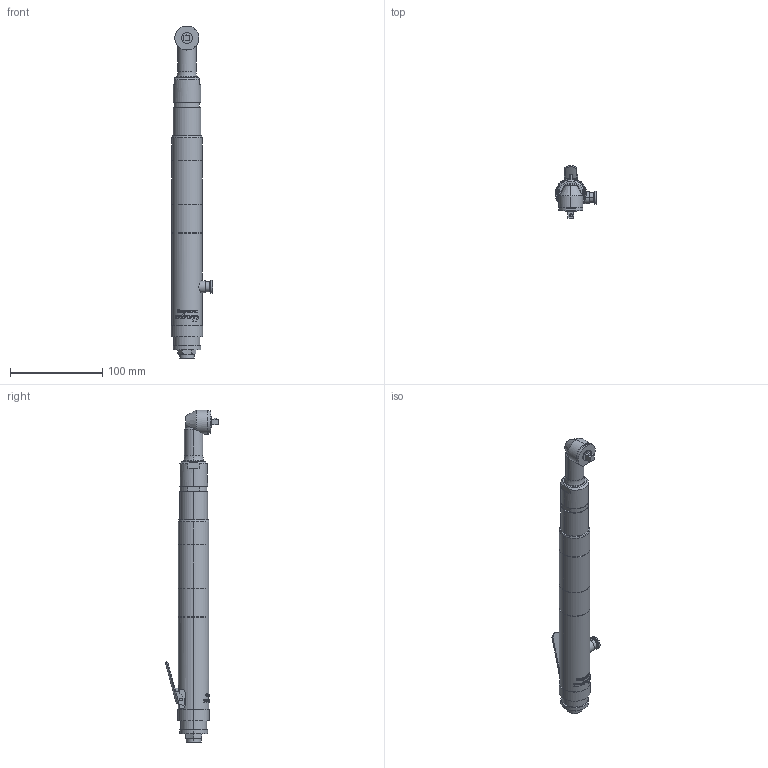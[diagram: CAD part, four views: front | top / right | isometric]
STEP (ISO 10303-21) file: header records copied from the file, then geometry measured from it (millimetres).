
FILE_DESCRIPTION (( 'STEP AP203' ), '1' );
FILE_NAME ('US-LT40-03C(P).STEP', '2006-03-22T04:08:37', ( '' ), ( '' ), 'SwSTEP 2.0', 'SolidWorks 2003240', '' );
FILE_SCHEMA (( 'CONFIG_CONTROL_DESIGN' ));
Length unit declared in the file: millimetre
Products named in the file (9): 4614418_US-LT40-03C(P)_蹬怮椔; 4614308_US-LT40-03C(P)_蹬怮椔; 8930571_US-LT40-03C(P)_蹬怮椔; 9810020_US-LT40-03C(P)_蹬怮椔; US-LT40-03C(P); 4613697_US-LT40-03C(P)_蹬怮椔; 4610256_US-LT40-03C(P)_蹬怮椔; 4611146_US-LT40-03C(P)_蹬怮椔; 4661075_US-LT40-03C(P)_蹬怮椔
Assembly tree (8 placements, depth 2):
  US-LT40-03C(P)
    4614418_US-LT40-03C(P)_蹬怮椔
    4661075_US-LT40-03C(P)_蹬怮椔
    8930571_US-LT40-03C(P)_蹬怮椔
    4610256_US-LT40-03C(P)_蹬怮椔
    4614308_US-LT40-03C(P)_蹬怮椔
    9810020_US-LT40-03C(P)_蹬怮椔
    4611146_US-LT40-03C(P)_蹬怮椔
    4613697_US-LT40-03C(P)_蹬怮椔
Bounding box: 45 x 57.62 x 359.5 mm (x, y, z)
Volume: 264423.7 mm3; surface area: 45083.6 mm2
Topology: 8 solids, 8 shells, 481 faces, 1221 edges, 803 vertices
Faces by surface type: plane 172, cylinder 160, bspline 125, cone 18, sphere 4, torus 2
Entity records: 23600 total; most frequent: CARTESIAN_POINT 12061, ORIENTED_EDGE 2432, DIRECTION 1796, EDGE_CURVE 1216, VERTEX_POINT 800, AXIS2_PLACEMENT_3D 652, EDGE_LOOP 536, VECTOR 492
